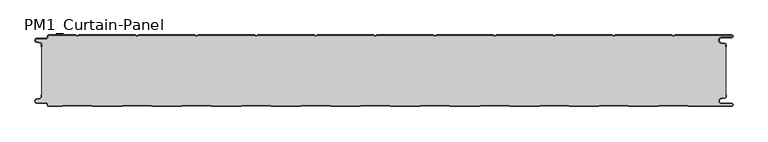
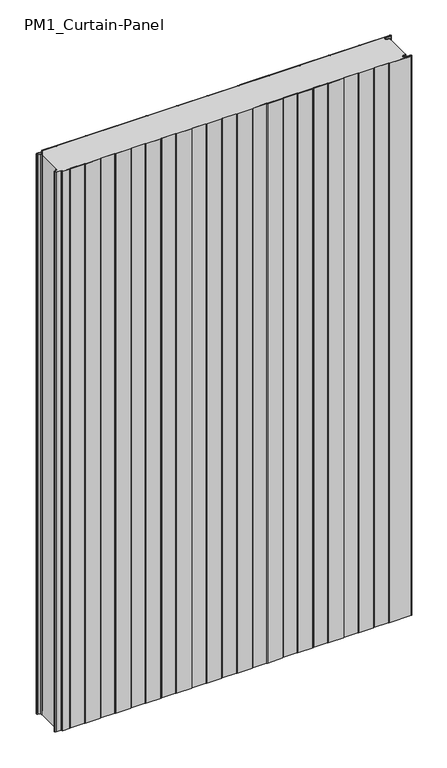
"""IFC4 building model written with IfcOpenShell, lengths in millimetres: plate geometry, PM1_Curtain-Panel : ACH_PM1_Stone-wool-Panel_120M."""

from ifc_helpers import new_model, si_unit, point, frame_2d, origin, origin_with_axes, place, context, project, spatial, polyline, circle_curve, trimmed, segment, composite_curve, outline, extrude, source, transform, mapped, element, save


def pm1_curtain_panel_82ab8441(model_context):
    return source(origin(), model_context, "Body", "SweptSolid", [
        extrude(outline(composite_curve([segment(trimmed(circle_curve(frame_2d((-577.0, -15.878557)), 2.0), [point((-575.0, -15.878557))], [point((-576.5500978, -13.9298169))], True, "CARTESIAN"), True, "CONTINUOUS"), segment(polyline([(-576.5500978, -13.9298169), (-582.7098239, -12.507732)]), True, "CONTINUOUS"), segment(trimmed(circle_curve(frame_2d((-581.9, -9.0)), 3.6), [point((-582.7098239, -12.507732))], [point((-581.9, -5.4))], False, "CARTESIAN"), True, "CONTINUOUS"), segment(polyline([(-581.9, -5.4), (-566.4, -5.4)]), True, "CONTINUOUS"), segment(trimmed(circle_curve(frame_2d((-566.4, -3.4)), 2.0), [point((-566.4, -5.4))], [point((-564.4, -3.4))], True, "CARTESIAN"), True, "CONTINUOUS"), segment(polyline([(-564.4, -3.4), (-564.4, -2.0)]), True, "CONTINUOUS"), segment(trimmed(circle_curve(frame_2d((-562.4, -2.0)), 2.0), [point((-564.4, -2.0))], [point((-562.4, 0.0))], False, "CARTESIAN"), True, "CONTINUOUS"), segment(polyline([(-562.4, 0.0), (-517.0999995, 0.0), (-514.4, -1.5588455), (-511.7000005, 0.0), (-417.0999995, 0.0), (-414.4, -1.5588455), (-411.7000005, 0.0), (-317.0999995, 0.0), (-314.4, -1.5588455), (-311.7000005, 0.0), (-217.0999995, 0.0), (-214.4, -1.5588455), (-211.7000005, 0.0), (-117.0999995, 0.0), (-114.4, -1.5588455), (-111.7000005, 0.0), (-17.0999995, 0.0), (-14.4, -1.5588455), (-11.7000005, 0.0), (82.9000005, 0.0), (85.6, -1.5588455), (88.2999995, 0.0), (182.9000005, 0.0), (185.6, -1.5588455), (188.2999995, 0.0), (282.9000005, 0.0), (285.6, -1.5588455), (288.2999995, 0.0), (382.9000005, 0.0), (385.6, -1.5588455), (388.2999995, 0.0), (482.9000005, 0.0), (485.6, -1.5588455), (488.2999995, 0.0), (583.1, 0.0)]), True, "CONTINUOUS"), segment(trimmed(circle_curve(frame_2d((583.1, -2.5)), 2.5), [point((583.1, 0.0))], [point((583.1, -5.0))], False, "CARTESIAN"), True, "CONTINUOUS"), segment(polyline([(583.1, -5.0), (566.1, -5.0)]), True, "CONTINUOUS"), segment(trimmed(circle_curve(frame_2d((566.1, -9.0)), 4.0), [point((566.1, -5.0))], [point((565.405407, -12.939231))], True, "CARTESIAN"), True, "CONTINUOUS"), segment(polyline([(565.405407, -12.939231), (571.8514855, -14.0758491)]), True, "CONTINUOUS"), segment(trimmed(circle_curve(frame_2d((571.4, -16.6363492)), 2.6), [point((571.8514855, -14.0758491))], [point((574.0, -16.6363492))], False, "CARTESIAN"), True, "CONTINUOUS"), segment(polyline([(574.0, -16.6363492), (574.0, -20.0), (573.2, -20.0), (573.2, -16.6363492)]), True, "CONTINUOUS"), segment(trimmed(circle_curve(frame_2d((571.4, -16.6363492)), 1.8), [point((573.2, -16.6363492))], [point((571.7125669, -14.8636953))], True, "CARTESIAN"), True, "CONTINUOUS"), segment(polyline([(571.7125669, -14.8636953), (565.2664884, -13.7270772)]), True, "CONTINUOUS"), segment(trimmed(circle_curve(frame_2d((566.1, -9.0)), 4.8), [point((565.2664884, -13.7270772))], [point((566.1, -4.2))], False, "CARTESIAN"), True, "CONTINUOUS"), segment(polyline([(566.1, -4.2), (583.1, -4.2)]), True, "CONTINUOUS"), segment(trimmed(circle_curve(frame_2d((583.1, -2.5)), 1.7), [point((583.1, -4.2))], [point((583.1, -0.8))], True, "CARTESIAN"), True, "CONTINUOUS"), segment(polyline([(583.1, -0.8), (488.5143588, -0.8), (485.6, -2.482606), (482.6856412, -0.8), (388.5143588, -0.8), (385.6, -2.482606), (382.6856412, -0.8), (288.5143588, -0.8), (285.6, -2.482606), (282.6856412, -0.8), (188.5143588, -0.8), (185.6, -2.482606), (182.6856412, -0.8), (88.5143588, -0.8), (85.6, -2.482606), (82.6856412, -0.8), (-11.4856412, -0.8), (-14.4, -2.482606), (-17.3143588, -0.8), (-111.4856412, -0.8), (-114.4, -2.482606), (-117.3143588, -0.8), (-211.4856412, -0.8), (-214.4, -2.482606), (-217.3143588, -0.8), (-311.4856412, -0.8), (-314.4, -2.482606), (-317.3143588, -0.8), (-411.4856412, -0.8), (-414.4, -2.482606), (-417.3143588, -0.8), (-511.4856412, -0.8), (-514.4, -2.482606), (-517.3143588, -0.8), (-562.4, -0.8)]), True, "CONTINUOUS"), segment(trimmed(circle_curve(frame_2d((-562.4, -2.0)), 1.2), [point((-562.4, -0.8))], [point((-563.6, -2.0))], True, "CARTESIAN"), True, "CONTINUOUS"), segment(polyline([(-563.6, -2.0), (-563.6, -3.4)]), True, "CONTINUOUS"), segment(trimmed(circle_curve(frame_2d((-566.4, -3.4)), 2.8), [point((-563.6, -3.4))], [point((-566.4, -6.2))], False, "CARTESIAN"), True, "CONTINUOUS"), segment(polyline([(-566.4, -6.2), (-581.9, -6.2)]), True, "CONTINUOUS"), segment(trimmed(circle_curve(frame_2d((-581.9, -9.0)), 2.8), [point((-581.9, -6.2))], [point((-582.529863, -11.7282362))], True, "CARTESIAN"), True, "CONTINUOUS"), segment(polyline([(-582.529863, -11.7282362), (-576.370137, -13.150321)]), True, "CONTINUOUS"), segment(trimmed(circle_curve(frame_2d((-577.0, -15.878557)), 2.8), [point((-576.370137, -13.150321))], [point((-574.2, -15.878557))], False, "CARTESIAN"), True, "CONTINUOUS"), segment(polyline([(-574.2, -15.878557), (-574.2, -20.0), (-575.0, -20.0), (-575.0, -15.878557)]), True, "CONTINUOUS")], self_intersect=False)), origin_with_axes(), (0.0, 0.0, 1.0), 1945.7507136),
        extrude(outline(composite_curve([segment(polyline([(-574.2, -104.121443), (-574.2, -15.8785573)]), True, "CONTINUOUS"), segment(trimmed(circle_curve(frame_2d((-577.0, -15.8785573)), 2.8), [point((-574.2, -15.8785573))], [point((-576.370137, -13.1503212))], True, "CARTESIAN"), True, "CONTINUOUS"), segment(polyline([(-576.370137, -13.1503212), (-582.5298631, -11.7282362)]), True, "CONTINUOUS"), segment(trimmed(circle_curve(frame_2d((-581.9, -9.0)), 2.8), [point((-582.5298631, -11.7282362))], [point((-581.9, -6.2))], False, "CARTESIAN"), True, "CONTINUOUS"), segment(polyline([(-581.9, -6.2), (-566.4000001, -6.2)]), True, "CONTINUOUS"), segment(trimmed(circle_curve(frame_2d((-566.4000001, -3.4)), 2.8), [point((-566.4000001, -6.2))], [point((-563.6000001, -3.4))], True, "CARTESIAN"), True, "CONTINUOUS"), segment(polyline([(-563.6000001, -3.4), (-563.6000001, -2.0)]), True, "CONTINUOUS"), segment(trimmed(circle_curve(frame_2d((-562.4000001, -2.0)), 1.2), [point((-563.6000001, -2.0))], [point((-562.4000001, -0.8))], False, "CARTESIAN"), True, "CONTINUOUS"), segment(polyline([(-562.4000001, -0.8), (-517.3143589, -0.8), (-514.4000001, -2.482606), (-511.4856412, -0.8), (-417.3143589, -0.8), (-414.4000001, -2.482606), (-411.4856412, -0.8), (-317.3143589, -0.8), (-314.4000001, -2.482606), (-311.4856412, -0.8), (-217.3143589, -0.8), (-214.4000001, -2.482606), (-211.4856412, -0.8), (-117.3143589, -0.8), (-114.4000001, -2.482606), (-111.4856412, -0.8), (-17.3143589, -0.8), (-14.4000001, -2.482606), (-11.4856412, -0.8), (82.6856411, -0.8), (85.5999999, -2.482606), (88.5143588, -0.8), (182.6856411, -0.8), (185.5999999, -2.482606), (188.5143588, -0.8), (282.6856411, -0.8), (285.5999999, -2.482606), (288.5143588, -0.8), (382.6856411, -0.8), (385.5999999, -2.482606), (388.5143588, -0.8), (482.6856411, -0.8), (485.6, -2.482606), (488.5143588, -0.8), (583.1, -0.8)]), True, "CONTINUOUS"), segment(trimmed(circle_curve(frame_2d((583.1, -2.5)), 1.7), [point((583.1, -0.8))], [point((583.1, -4.2))], False, "CARTESIAN"), True, "CONTINUOUS"), segment(polyline([(583.1, -4.2), (566.1, -4.2)]), True, "CONTINUOUS"), segment(trimmed(circle_curve(frame_2d((566.1, -9.0)), 4.8), [point((566.1, -4.2))], [point((565.2664883, -13.7270771))], True, "CARTESIAN"), True, "CONTINUOUS"), segment(polyline([(565.2664883, -13.7270771), (571.7125668, -14.8636953)]), True, "CONTINUOUS"), segment(trimmed(circle_curve(frame_2d((571.4, -16.6363492)), 1.8), [point((571.7125668, -14.8636953))], [point((573.2, -16.6363492))], False, "CARTESIAN"), True, "CONTINUOUS"), segment(polyline([(573.2, -16.6363492), (573.2, -103.363652)]), True, "CONTINUOUS"), segment(trimmed(circle_curve(frame_2d((571.4, -103.363652)), 1.8), [point((573.2, -103.363652))], [point((571.7125666, -105.1363059))], False, "CARTESIAN"), True, "CONTINUOUS"), segment(polyline([(571.7125666, -105.1363059), (565.266489, -106.272923)]), True, "CONTINUOUS"), segment(trimmed(circle_curve(frame_2d((566.1, -111.0000002)), 4.7999999), [point((565.266489, -106.272923))], [point((566.1, -115.8000001))], True, "CARTESIAN"), True, "CONTINUOUS"), segment(polyline([(566.1, -115.8000001), (583.1, -115.8000001)]), True, "CONTINUOUS"), segment(trimmed(circle_curve(frame_2d((583.1, -117.5)), 1.7), [point((583.1, -115.8000001))], [point((583.1, -119.2))], False, "CARTESIAN"), True, "CONTINUOUS"), segment(polyline([(583.1, -119.2), (510.8105122, -119.2), (508.2124346, -117.7), (462.9837184, -117.7), (460.3856408, -119.2), (410.8105122, -119.2), (408.2124346, -117.7), (362.9837184, -117.7), (360.3856408, -119.2), (310.8105122, -119.2), (308.2124346, -117.7), (262.9837184, -117.7), (260.3856408, -119.2), (210.8105122, -119.2), (208.2124346, -117.7), (162.9837184, -117.7), (160.3856408, -119.2), (110.8105122, -119.2), (108.2124346, -117.7), (62.9837184, -117.7), (60.3856408, -119.2), (10.8105122, -119.2), (8.2124346, -117.7), (-37.0162816, -117.7), (-39.6143592, -119.2), (-89.1894878, -119.2), (-91.7875654, -117.7), (-137.0162816, -117.7), (-139.6143592, -119.2), (-189.1894878, -119.2), (-191.7875654, -117.7), (-237.0162816, -117.7), (-239.6143592, -119.2), (-289.1894878, -119.2), (-291.7875654, -117.7), (-337.0162816, -117.7), (-339.6143592, -119.2), (-389.1894878, -119.2), (-391.7875654, -117.7), (-437.0162816, -117.7), (-439.6143592, -119.2), (-489.1894878, -119.2), (-491.7875654, -117.7), (-537.0162816, -117.7), (-539.6143592, -119.2), (-562.4, -119.2)]), True, "CONTINUOUS"), segment(trimmed(circle_curve(frame_2d((-562.4, -118.0)), 1.2), [point((-562.4, -119.2))], [point((-563.6, -118.0))], False, "CARTESIAN"), True, "CONTINUOUS"), segment(polyline([(-563.6, -118.0), (-563.6, -116.5999998)]), True, "CONTINUOUS"), segment(trimmed(circle_curve(frame_2d((-566.4, -116.5999998)), 2.8), [point((-563.6, -116.5999998))], [point((-566.4, -113.7999998))], True, "CARTESIAN"), True, "CONTINUOUS"), segment(polyline([(-566.4, -113.7999998), (-581.9, -113.7999998)]), True, "CONTINUOUS"), segment(trimmed(circle_curve(frame_2d((-581.9, -111.0)), 2.7999998), [point((-581.9, -113.7999998))], [point((-582.529863, -108.271764))], False, "CARTESIAN"), True, "CONTINUOUS"), segment(polyline([(-582.529863, -108.271764), (-576.370137, -106.8496792)]), True, "CONTINUOUS"), segment(trimmed(circle_curve(frame_2d((-577.0, -104.121443)), 2.8), [point((-576.370137, -106.8496792))], [point((-574.2, -104.121443))], True, "CARTESIAN"), True, "CONTINUOUS")], self_intersect=False)), origin_with_axes(), (0.0, 0.0, 1.0), 1945.7507136),
        extrude(outline(composite_curve([segment(trimmed(circle_curve(frame_2d((-562.4, -118.0)), 2.0), [point((-562.4, -120.0))], [point((-564.4, -118.0))], False, "CARTESIAN"), True, "CONTINUOUS"), segment(polyline([(-564.4, -118.0), (-564.4, -116.6)]), True, "CONTINUOUS"), segment(trimmed(circle_curve(frame_2d((-566.4, -116.6)), 2.0), [point((-564.4, -116.6))], [point((-566.4, -114.6))], True, "CARTESIAN"), True, "CONTINUOUS"), segment(polyline([(-566.4, -114.6), (-581.9, -114.6)]), True, "CONTINUOUS"), segment(trimmed(circle_curve(frame_2d((-581.9, -111.0)), 3.6), [point((-581.9, -114.6))], [point((-582.7098239, -107.4922678))], False, "CARTESIAN"), True, "CONTINUOUS"), segment(polyline([(-582.7098239, -107.4922678), (-576.5500979, -106.070183)]), True, "CONTINUOUS"), segment(trimmed(circle_curve(frame_2d((-577.0, -104.121443)), 2.0), [point((-576.5500979, -106.070183))], [point((-575.0, -104.121443))], True, "CARTESIAN"), True, "CONTINUOUS"), segment(polyline([(-575.0, -104.121443), (-575.0, -100.0), (-574.2, -100.0), (-574.2, -104.121443)]), True, "CONTINUOUS"), segment(trimmed(circle_curve(frame_2d((-577.0, -104.121443)), 2.8), [point((-574.2, -104.121443))], [point((-576.370137, -106.8496792))], False, "CARTESIAN"), True, "CONTINUOUS"), segment(polyline([(-576.370137, -106.8496792), (-582.529863, -108.271764)]), True, "CONTINUOUS"), segment(trimmed(circle_curve(frame_2d((-581.9, -111.0)), 2.8), [point((-582.529863, -108.271764))], [point((-581.9, -113.8))], True, "CARTESIAN"), True, "CONTINUOUS"), segment(polyline([(-581.9, -113.8), (-566.4, -113.8)]), True, "CONTINUOUS"), segment(trimmed(circle_curve(frame_2d((-566.4, -116.6)), 2.8), [point((-566.4, -113.8))], [point((-563.6, -116.6))], False, "CARTESIAN"), True, "CONTINUOUS"), segment(polyline([(-563.6, -116.6), (-563.6, -118.0)]), True, "CONTINUOUS"), segment(trimmed(circle_curve(frame_2d((-562.4, -118.0)), 1.2), [point((-563.6, -118.0))], [point((-562.4, -119.2))], True, "CARTESIAN"), True, "CONTINUOUS"), segment(polyline([(-562.4, -119.2), (-539.6143592, -119.2), (-537.0162816, -117.7), (-491.7875654, -117.7), (-489.1894878, -119.2), (-439.6143592, -119.2), (-437.0162816, -117.7), (-391.7875654, -117.7), (-389.1894878, -119.2), (-339.6143592, -119.2), (-337.0162816, -117.7), (-291.7875654, -117.7), (-289.1894878, -119.2), (-239.6143592, -119.2), (-237.0162816, -117.7), (-191.7875654, -117.7), (-189.1894878, -119.2), (-139.6143592, -119.2), (-137.0162816, -117.7), (-91.7875654, -117.7), (-89.1894878, -119.2), (-39.6143592, -119.2), (-37.0162816, -117.7), (8.2124346, -117.7), (10.8105122, -119.2), (60.3856408, -119.2), (62.9837184, -117.7), (108.2124346, -117.7), (110.8105122, -119.2), (160.3856408, -119.2), (162.9837184, -117.7), (208.2124346, -117.7), (210.8105122, -119.2), (260.3856408, -119.2), (262.9837184, -117.7), (308.2124346, -117.7), (310.8105122, -119.2), (360.3856408, -119.2), (362.9837184, -117.7), (408.2124346, -117.7), (410.8105122, -119.2), (460.3856408, -119.2), (462.9837184, -117.7), (508.2124346, -117.7), (510.8105122, -119.2), (583.1, -119.2)]), True, "CONTINUOUS"), segment(trimmed(circle_curve(frame_2d((583.1, -117.5)), 1.7), [point((583.1, -119.2))], [point((583.1, -115.8))], True, "CARTESIAN"), True, "CONTINUOUS"), segment(polyline([(583.1, -115.8), (566.1, -115.8)]), True, "CONTINUOUS"), segment(trimmed(circle_curve(frame_2d((566.1, -111.0)), 4.8), [point((566.1, -115.8))], [point((565.266489, -106.2729227))], False, "CARTESIAN"), True, "CONTINUOUS"), segment(polyline([(565.266489, -106.2729227), (571.7125666, -105.1363058)]), True, "CONTINUOUS"), segment(trimmed(circle_curve(frame_2d((571.4, -103.363652)), 1.8), [point((571.7125666, -105.1363058))], [point((573.2, -103.363652))], True, "CARTESIAN"), True, "CONTINUOUS"), segment(polyline([(573.2, -103.363652), (573.2, -100.0), (574.0, -100.0), (574.0, -103.363652)]), True, "CONTINUOUS"), segment(trimmed(circle_curve(frame_2d((571.4, -103.363652)), 2.6), [point((574.0, -103.363652))], [point((571.8514851, -105.9241522))], False, "CARTESIAN"), True, "CONTINUOUS"), segment(polyline([(571.8514851, -105.9241522), (565.4054075, -107.0607691)]), True, "CONTINUOUS"), segment(trimmed(circle_curve(frame_2d((566.1, -111.0)), 4.0), [point((565.4054075, -107.0607691))], [point((566.1, -115.0))], True, "CARTESIAN"), True, "CONTINUOUS"), segment(polyline([(566.1, -115.0), (583.1, -115.0)]), True, "CONTINUOUS"), segment(trimmed(circle_curve(frame_2d((583.1, -117.5)), 2.5), [point((583.1, -115.0))], [point((583.1, -120.0))], False, "CARTESIAN"), True, "CONTINUOUS"), segment(polyline([(583.1, -120.0), (510.5961529, -120.0), (507.9980753, -118.5), (463.1980777, -118.5), (460.6000001, -120.0), (410.5961529, -120.0), (407.9980753, -118.5), (363.1980777, -118.5), (360.6000001, -120.0), (310.5961529, -120.0), (307.9980753, -118.5), (263.1980777, -118.5), (260.6000001, -120.0), (210.5961529, -120.0), (207.9980753, -118.5), (163.1980777, -118.5), (160.6000001, -120.0), (110.5961529, -120.0), (107.9980753, -118.5), (63.1980777, -118.5), (60.6000001, -120.0), (10.5961529, -120.0), (7.9980753, -118.5), (-36.8019223, -118.5), (-39.3999999, -120.0), (-89.4038471, -120.0), (-92.0019247, -118.5), (-136.8019223, -118.5), (-139.3999999, -120.0), (-189.4038471, -120.0), (-192.0019247, -118.5), (-236.8019223, -118.5), (-239.3999999, -120.0), (-289.4038471, -120.0), (-292.0019247, -118.5), (-336.8019223, -118.5), (-339.3999999, -120.0), (-389.4038471, -120.0), (-392.0019247, -118.5), (-436.8019223, -118.5), (-439.3999999, -120.0), (-489.4038471, -120.0), (-492.0019247, -118.5), (-536.8019223, -118.5), (-539.3999999, -120.0), (-562.4, -120.0)]), True, "CONTINUOUS")], self_intersect=False)), origin_with_axes(), (0.0, 0.0, 1.0), 1945.7507136),
    ])


if __name__ == "__main__":
    model = new_model("IFC4")
    model_context = context("Model", 3, world=origin())
    ifc_project = project(units=[si_unit("LENGTHUNIT", "METRE", prefix="MILLI")], contexts=[model_context])
    site = spatial("IfcSite", under=ifc_project)
    building = spatial("IfcBuilding", under=site)
    placement = place(None, origin())
    pm1_curtain_panel_shape = pm1_curtain_panel_82ab8441(model_context)
    element("IfcPlate", 1, ObjectType="PM1_Curtain-Panel : ACH_PM1_Stone-wool-Panel_120M", at=placement, inside=building, context=model_context, shape_type="MappedRepresentation", body=[
        mapped(pm1_curtain_panel_shape, transform((0.0, 0.0, 0.0), x_axis=(1.0, 0.0, 0.0), y_axis=(0.0, 1.0, 0.0), z_axis=(0.0, 0.0, 1.0))),
    ])
    save(model, "model.ifc")
